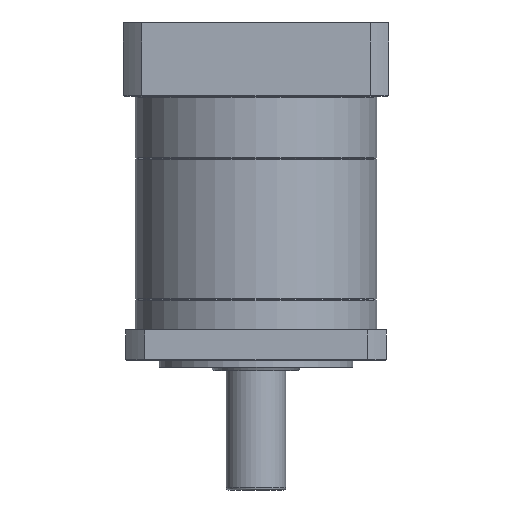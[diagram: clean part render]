
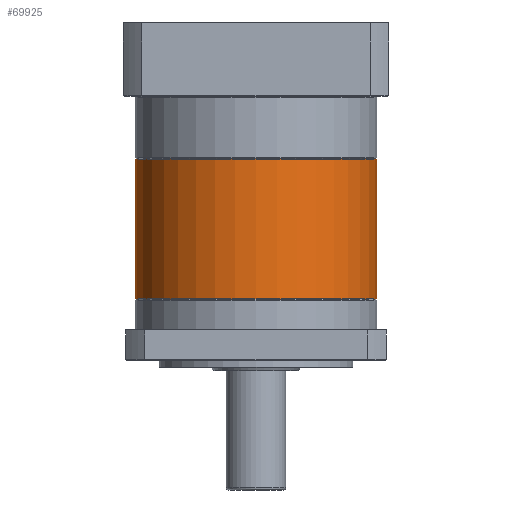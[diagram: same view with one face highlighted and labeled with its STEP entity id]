
A CAD part, front view. The second image highlights one B-rep face of the part: STEP entity #69925.
In plain terms, the highlighted cylindrical face has radius 81 mm (diameter 162 mm), a partial arc.
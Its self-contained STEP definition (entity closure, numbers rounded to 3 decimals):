
#757 = DIRECTION ( 'NONE',  ( -1., 0., 0. ) ) ;
#4553 = LINE ( 'NONE', #73473, #51128 ) ;
#7641 = CARTESIAN_POINT ( 'NONE',  ( -16.295, 74.934, -188.264 ) ) ;
#13163 = CYLINDRICAL_SURFACE ( 'NONE', #107514, 81. ) ;
#14060 = CIRCLE ( 'NONE', #116655, 81. ) ;
#16658 = EDGE_CURVE ( 'NONE', #100472, #127482, #20545, .T. ) ;
#17214 = DIRECTION ( 'NONE',  ( -1., 0., 0. ) ) ;
#17919 = CARTESIAN_POINT ( 'NONE',  ( -16.295, 74.934, -94.764 ) ) ;
#20545 = CIRCLE ( 'NONE', #137997, 81. ) ;
#30221 = DIRECTION ( 'NONE',  ( 0., 0., -1. ) ) ;
#33107 = DIRECTION ( 'NONE',  ( 0., 0., -1. ) ) ;
#45052 = CARTESIAN_POINT ( 'NONE',  ( -97.295, 74.934, -94.764 ) ) ;
#48860 = DIRECTION ( 'NONE',  ( -1., 0., 0. ) ) ;
#50432 = DIRECTION ( 'NONE',  ( 0., 0., 1. ) ) ;
#51128 = VECTOR ( 'NONE', #30221, 1000. ) ;
#55324 = VERTEX_POINT ( 'NONE', #94972 ) ;
#57656 = VECTOR ( 'NONE', #33107, 1000. ) ;
#69925 = ADVANCED_FACE ( 'NONE', ( #88953 ), #13163, .T. ) ;
#73473 = CARTESIAN_POINT ( 'NONE',  ( -16.295, 74.934, -94.264 ) ) ;
#88953 = FACE_OUTER_BOUND ( 'NONE', #103423, .T. ) ;
#91615 = EDGE_CURVE ( 'NONE', #99286, #127482, #4553, .T. ) ;
#94458 = DIRECTION ( 'NONE',  ( 0., 0., -1. ) ) ;
#94972 = CARTESIAN_POINT ( 'NONE',  ( -178.295, 74.934, -94.764 ) ) ;
#99286 = VERTEX_POINT ( 'NONE', #17919 ) ;
#100472 = VERTEX_POINT ( 'NONE', #126885 ) ;
#103423 = EDGE_LOOP ( 'NONE', ( #118569, #129781, #134125, #105010 ) ) ;
#105010 = ORIENTED_EDGE ( 'NONE', *, *, #16658, .T. ) ;
#107514 = AXIS2_PLACEMENT_3D ( 'NONE', #137370, #94458, #48860 ) ;
#116655 = AXIS2_PLACEMENT_3D ( 'NONE', #45052, #132646, #757 ) ;
#116760 = CARTESIAN_POINT ( 'NONE',  ( -97.295, 74.934, -188.264 ) ) ;
#117860 = LINE ( 'NONE', #122616, #57656 ) ;
#118569 = ORIENTED_EDGE ( 'NONE', *, *, #91615, .F. ) ;
#122616 = CARTESIAN_POINT ( 'NONE',  ( -178.295, 74.934, -94.264 ) ) ;
#126885 = CARTESIAN_POINT ( 'NONE',  ( -178.295, 74.934, -188.264 ) ) ;
#127482 = VERTEX_POINT ( 'NONE', #7641 ) ;
#129781 = ORIENTED_EDGE ( 'NONE', *, *, #134937, .T. ) ;
#132646 = DIRECTION ( 'NONE',  ( 0., 0., -1. ) ) ;
#134125 = ORIENTED_EDGE ( 'NONE', *, *, #142554, .T. ) ;
#134937 = EDGE_CURVE ( 'NONE', #99286, #55324, #14060, .T. ) ;
#137370 = CARTESIAN_POINT ( 'NONE',  ( -97.295, 74.934, -94.264 ) ) ;
#137997 = AXIS2_PLACEMENT_3D ( 'NONE', #116760, #50432, #17214 ) ;
#142554 = EDGE_CURVE ( 'NONE', #55324, #100472, #117860, .T. ) ;
